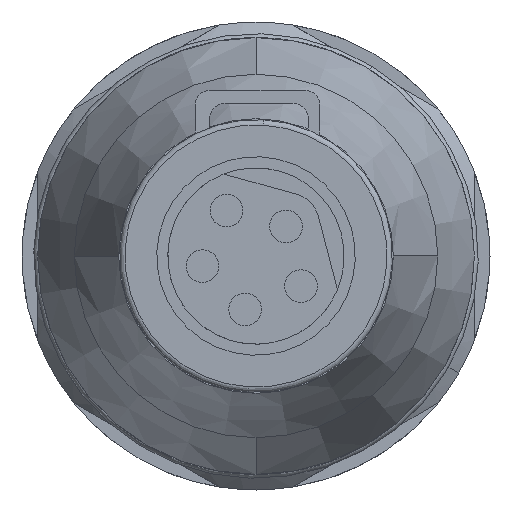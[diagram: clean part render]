
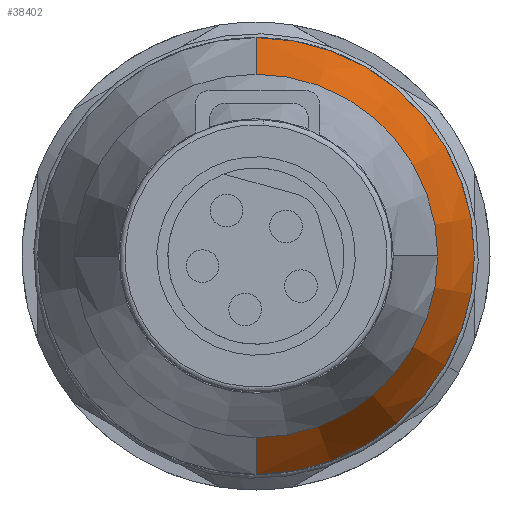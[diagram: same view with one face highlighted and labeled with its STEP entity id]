
A CAD part, front view. The second image highlights one B-rep face of the part: STEP entity #38402.
In plain terms, the highlighted conical face has half-angle 20.807 degrees and reference radius 7 mm.
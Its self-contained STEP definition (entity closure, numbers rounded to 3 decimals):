
#1602 = ORIENTED_EDGE ( 'NONE', *, *, #18976, .T. ) ;
#4950 = CARTESIAN_POINT ( 'NONE',  ( -8., 0., 0. ) ) ;
#5865 = EDGE_CURVE ( 'NONE', #27711, #6855, #24403, .T. ) ;
#6855 = VERTEX_POINT ( 'NONE', #47293 ) ;
#6902 = VECTOR ( 'NONE', #32900, 1000. ) ;
#9085 = VERTEX_POINT ( 'NONE', #10160 ) ;
#10160 = CARTESIAN_POINT ( 'NONE',  ( -13., 7., 0. ) ) ;
#10456 = ORIENTED_EDGE ( 'NONE', *, *, #20533, .T. ) ;
#10690 = DIRECTION ( 'NONE',  ( 0., 0., 1. ) ) ;
#11271 = ORIENTED_EDGE ( 'NONE', *, *, #34147, .F. ) ;
#12325 = EDGE_CURVE ( 'NONE', #42407, #29205, #32958, .T. ) ;
#12675 = CONICAL_SURFACE ( 'NONE', #14192, 7., 0.363 ) ;
#12722 = EDGE_LOOP ( 'NONE', ( #23536, #10456, #26762, #11271, #34434, #1602 ) ) ;
#13692 = CARTESIAN_POINT ( 'NONE',  ( -13., 0., -7. ) ) ;
#13853 = AXIS2_PLACEMENT_3D ( 'NONE', #39707, #29605, #10690 ) ;
#14192 = AXIS2_PLACEMENT_3D ( 'NONE', #21203, #24295, #46851 ) ;
#15333 = CIRCLE ( 'NONE', #25244, 7. ) ;
#15634 = CARTESIAN_POINT ( 'NONE',  ( -8., 0., -5.1 ) ) ;
#16375 = EDGE_CURVE ( 'NONE', #9085, #26786, #15333, .T. ) ;
#17214 = DIRECTION ( 'NONE',  ( -0.935, 0., 0.355 ) ) ;
#18291 = LINE ( 'NONE', #36253, #6902 ) ;
#18976 = EDGE_CURVE ( 'NONE', #27711, #42407, #42932, .T. ) ;
#19610 = DIRECTION ( 'NONE',  ( 0., 0., 1. ) ) ;
#20533 = EDGE_CURVE ( 'NONE', #29205, #26786, #18291, .T. ) ;
#20703 = AXIS2_PLACEMENT_3D ( 'NONE', #4950, #27972, #19610 ) ;
#21203 = CARTESIAN_POINT ( 'NONE',  ( -13., 0., 0. ) ) ;
#23536 = ORIENTED_EDGE ( 'NONE', *, *, #12325, .T. ) ;
#24035 = CARTESIAN_POINT ( 'NONE',  ( -8., 0., 5.1 ) ) ;
#24295 = DIRECTION ( 'NONE',  ( -1., 0., 0. ) ) ;
#24403 = LINE ( 'NONE', #38786, #41229 ) ;
#25113 = CARTESIAN_POINT ( 'NONE',  ( -13., 0., 0. ) ) ;
#25244 = AXIS2_PLACEMENT_3D ( 'NONE', #25113, #28483, #46452 ) ;
#26762 = ORIENTED_EDGE ( 'NONE', *, *, #16375, .F. ) ;
#26786 = VERTEX_POINT ( 'NONE', #13692 ) ;
#27711 = VERTEX_POINT ( 'NONE', #24035 ) ;
#27972 = DIRECTION ( 'NONE',  ( -1., 0., 0. ) ) ;
#28483 = DIRECTION ( 'NONE',  ( -1., 0., 0. ) ) ;
#29205 = VERTEX_POINT ( 'NONE', #15634 ) ;
#29605 = DIRECTION ( 'NONE',  ( -1., 0., 0. ) ) ;
#29612 = DIRECTION ( 'NONE',  ( 0., 1., 0. ) ) ;
#30716 = CIRCLE ( 'NONE', #34538, 7. ) ;
#32900 = DIRECTION ( 'NONE',  ( -0.935, 0., -0.355 ) ) ;
#32958 = CIRCLE ( 'NONE', #20703, 5.1 ) ;
#34147 = EDGE_CURVE ( 'NONE', #6855, #9085, #30716, .T. ) ;
#34434 = ORIENTED_EDGE ( 'NONE', *, *, #5865, .F. ) ;
#34538 = AXIS2_PLACEMENT_3D ( 'NONE', #39960, #36338, #29612 ) ;
#36253 = CARTESIAN_POINT ( 'NONE',  ( -13., 0., -7. ) ) ;
#36338 = DIRECTION ( 'NONE',  ( -1., 0., 0. ) ) ;
#38402 = ADVANCED_FACE ( 'NONE', ( #39901 ), #12675, .T. ) ;
#38786 = CARTESIAN_POINT ( 'NONE',  ( -13., 0., 7. ) ) ;
#39707 = CARTESIAN_POINT ( 'NONE',  ( -8., 0., 0. ) ) ;
#39901 = FACE_OUTER_BOUND ( 'NONE', #12722, .T. ) ;
#39960 = CARTESIAN_POINT ( 'NONE',  ( -13., 0., 0. ) ) ;
#41229 = VECTOR ( 'NONE', #17214, 1000. ) ;
#42407 = VERTEX_POINT ( 'NONE', #46700 ) ;
#42932 = CIRCLE ( 'NONE', #13853, 5.1 ) ;
#46452 = DIRECTION ( 'NONE',  ( 0., 1., 0. ) ) ;
#46700 = CARTESIAN_POINT ( 'NONE',  ( -8., 5.1, 0. ) ) ;
#46851 = DIRECTION ( 'NONE',  ( 0., 0., 1. ) ) ;
#47293 = CARTESIAN_POINT ( 'NONE',  ( -13., 0., 7. ) ) ;
